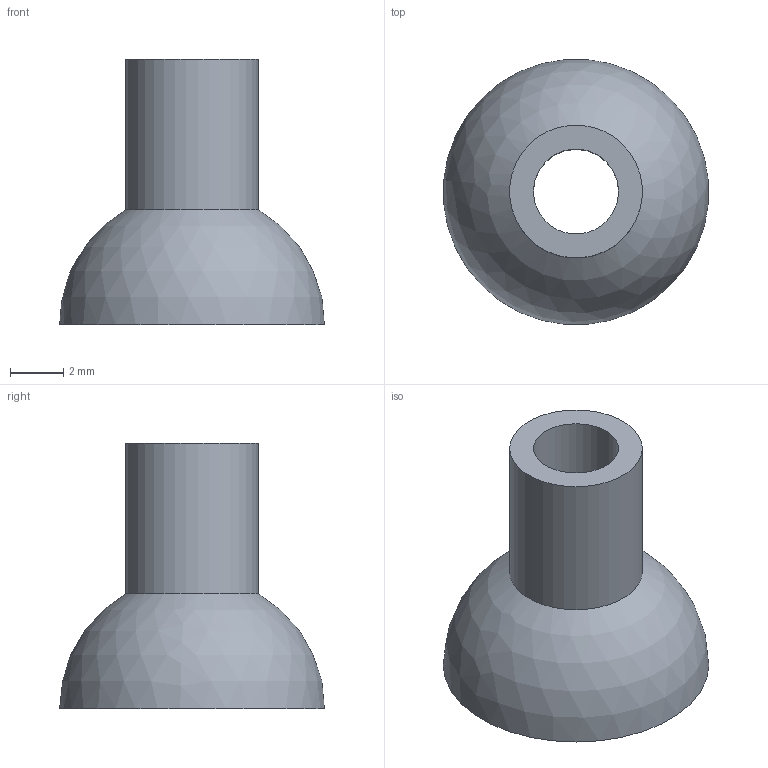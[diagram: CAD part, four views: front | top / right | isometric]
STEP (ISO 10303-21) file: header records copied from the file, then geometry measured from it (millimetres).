
FILE_DESCRIPTION(/* description */ (''),/* implementation_level */ '2;1');
FILE_NAME(/* name */ '4-40-4 Lower ball.step',/* time_stamp */ '2025-05-10T22:20:26+02:00',/* author */ (''),/* organization */ (''),/* preprocessor_version */ 'ST-DEVELOPER v20.1',/* originating_system */ 'Autodesk Translation Framework v14.4.0.0',/* authorisation */ '');
FILE_SCHEMA (('AUTOMOTIVE_DESIGN { 1 0 10303 214 3 1 1 }'));
Length unit declared in the file: millimetre
Products named in the file (1): Lower ball
Bounding box: 9.96 x 9.96 x 10 mm (x, y, z)
Volume: 286 mm3; surface area: 407.7 mm2
Topology: 1 solids, 1 shells, 5 faces, 8 edges, 5 vertices
Faces by surface type: cylinder 2, plane 2, sphere 1
Full cylindrical faces by diameter (mm): 3.2 x1, 5 x1
Entity records: 164 total; most frequent: DIRECTION 26, CARTESIAN_POINT 19, ORIENTED_EDGE 16, AXIS2_PLACEMENT_3D 12, EDGE_CURVE 8, EDGE_LOOP 7, CIRCLE 6, FACE_OUTER_BOUND 5
